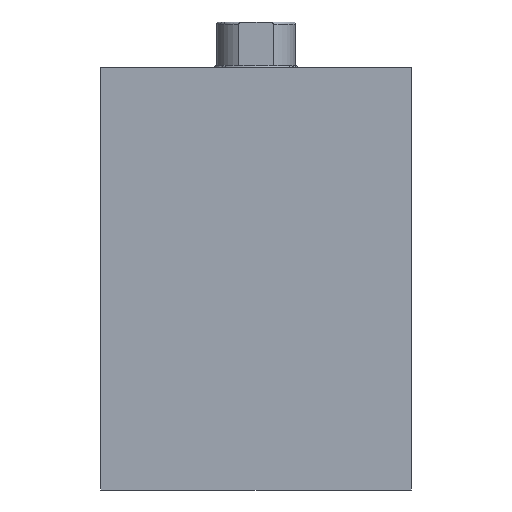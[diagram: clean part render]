
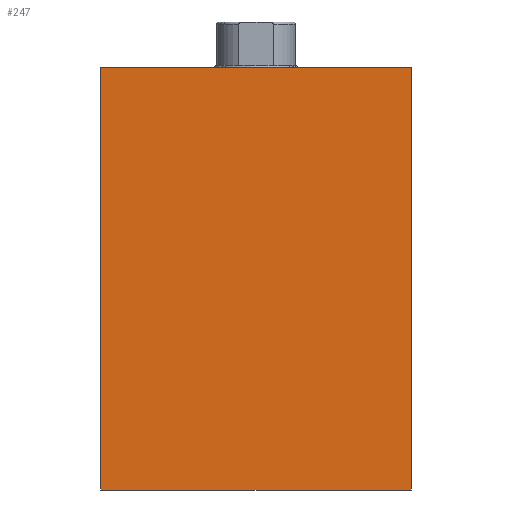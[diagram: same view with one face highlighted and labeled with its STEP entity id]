
A CAD part, left-side view. The second image highlights one B-rep face of the part: STEP entity #247.
In plain terms, the highlighted planar face has unit normal (-1, 0, 0) as drawn and (0, 0, -1) by its records, which use the part's own axes.
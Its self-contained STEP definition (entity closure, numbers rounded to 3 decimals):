
#247 = ADVANCED_FACE( '', ( #338 ), #339, .F. );
#338 = FACE_OUTER_BOUND( '', #554, .T. );
#339 = PLANE( '', #555 );
#554 = EDGE_LOOP( '', ( #789, #790, #791, #792 ) );
#555 = AXIS2_PLACEMENT_3D( '', #793, #794, #795 );
#789 = ORIENTED_EDGE( '', *, *, #1166, .T. );
#790 = ORIENTED_EDGE( '', *, *, #1183, .F. );
#791 = ORIENTED_EDGE( '', *, *, #1178, .F. );
#792 = ORIENTED_EDGE( '', *, *, #1182, .T. );
#793 = CARTESIAN_POINT( '', ( 102., -37.5, -27.5 ) );
#794 = DIRECTION( '', ( 0., 0., 1. ) );
#795 = DIRECTION( '', ( 1., 0., 0. ) );
#1166 = EDGE_CURVE( '', #1267, #1265, #1268, .T. );
#1178 = EDGE_CURVE( '', #1287, #1289, #1290, .T. );
#1182 = EDGE_CURVE( '', #1287, #1267, #1296, .T. );
#1183 = EDGE_CURVE( '', #1289, #1265, #1297, .T. );
#1265 = VERTEX_POINT( '', #1510 );
#1267 = VERTEX_POINT( '', #1513 );
#1268 = LINE( '', #1514, #1515 );
#1287 = VERTEX_POINT( '', #1706 );
#1289 = VERTEX_POINT( '', #1709 );
#1290 = LINE( '', #1710, #1711 );
#1296 = B_SPLINE_CURVE_WITH_KNOTS( '', 1, ( #1784, #1785 ), .UNSPECIFIED., .F., .F., ( 2, 2 ), ( 0., 1. ), .UNSPECIFIED. );
#1297 = B_SPLINE_CURVE_WITH_KNOTS( '', 1, ( #1786, #1787 ), .UNSPECIFIED., .F., .F., ( 2, 2 ), ( 0., 1. ), .UNSPECIFIED. );
#1510 = CARTESIAN_POINT( '', ( 0., 37.5, -27.5 ) );
#1513 = CARTESIAN_POINT( '', ( 0., -37.5, -27.5 ) );
#1514 = CARTESIAN_POINT( '', ( 0., -37.5, -27.5 ) );
#1515 = VECTOR( '', #3890, 1000. );
#1706 = CARTESIAN_POINT( '', ( 102., -37.5, -27.5 ) );
#1709 = CARTESIAN_POINT( '', ( 102., 37.5, -27.5 ) );
#1710 = CARTESIAN_POINT( '', ( 102., -37.5, -27.5 ) );
#1711 = VECTOR( '', #3897, 1000. );
#1784 = CARTESIAN_POINT( '', ( 102., -37.5, -27.5 ) );
#1785 = CARTESIAN_POINT( '', ( 0., -37.5, -27.5 ) );
#1786 = CARTESIAN_POINT( '', ( 102., 37.5, -27.5 ) );
#1787 = CARTESIAN_POINT( '', ( 0., 37.5, -27.5 ) );
#3890 = DIRECTION( '', ( 0., 1., 0. ) );
#3897 = DIRECTION( '', ( 0., 1., 0. ) );
